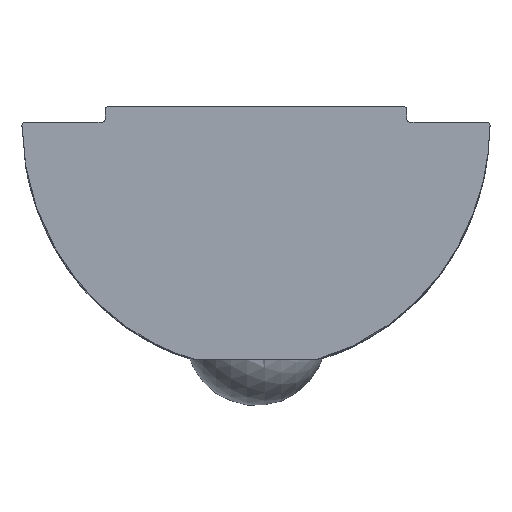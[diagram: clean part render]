
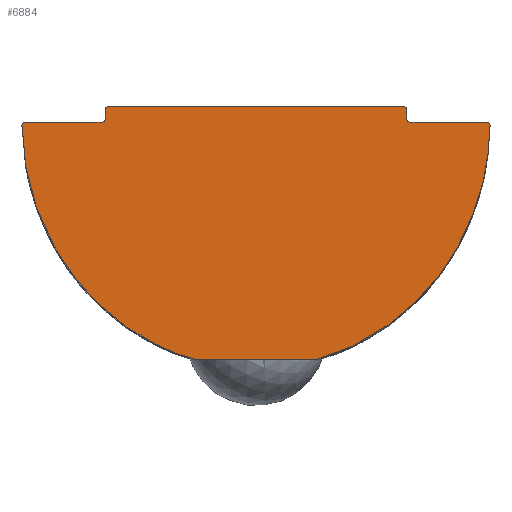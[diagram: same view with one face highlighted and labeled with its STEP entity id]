
A CAD part, top view. The second image highlights one B-rep face of the part: STEP entity #6884.
In plain terms, the highlighted planar face has unit normal (0, 0, 1).
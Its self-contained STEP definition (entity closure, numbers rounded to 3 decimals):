
#52 = CARTESIAN_POINT ( 'NONE',  ( 4.9, -0.4, 11.5 ) ) ;
#87 = DIRECTION ( 'NONE',  ( 1., 0., 0. ) ) ;
#113 = DIRECTION ( 'NONE',  ( 0., 1., 0. ) ) ;
#392 = VERTEX_POINT ( 'NONE', #2231 ) ;
#520 = VERTEX_POINT ( 'NONE', #5493 ) ;
#552 = CIRCLE ( 'NONE', #5909, 0.1 ) ;
#606 = ORIENTED_EDGE ( 'NONE', *, *, #8255, .T. ) ;
#621 = CARTESIAN_POINT ( 'NONE',  ( -7.499, -0.6, 11.5 ) ) ;
#688 = EDGE_CURVE ( 'NONE', #520, #5673, #8153, .T. ) ;
#730 = CARTESIAN_POINT ( 'NONE',  ( 4.9, -0.5, 11.5 ) ) ;
#752 = CARTESIAN_POINT ( 'NONE',  ( -4.8, 0., 11.5 ) ) ;
#772 = DIRECTION ( 'NONE',  ( 1., 0., 0. ) ) ;
#1117 = CARTESIAN_POINT ( 'NONE',  ( -7.499, -0.5, 11.5 ) ) ;
#1131 = CARTESIAN_POINT ( 'NONE',  ( 7.599, -0.601, 11.5 ) ) ;
#1168 = VECTOR ( 'NONE', #772, 1000. ) ;
#1181 = CARTESIAN_POINT ( 'NONE',  ( -7.555, -4.301, 11.5 ) ) ;
#1394 = DIRECTION ( 'NONE',  ( 1., 0., 0. ) ) ;
#1397 = LINE ( 'NONE', #730, #3622 ) ;
#1503 = EDGE_CURVE ( 'NONE', #4186, #1549, #8081, .T. ) ;
#1533 = DIRECTION ( 'NONE',  ( 0., 0., 1. ) ) ;
#1549 = VERTEX_POINT ( 'NONE', #6614 ) ;
#1566 = ORIENTED_EDGE ( 'NONE', *, *, #7665, .T. ) ;
#1768 = VECTOR ( 'NONE', #5025, 1000. ) ;
#1801 = ORIENTED_EDGE ( 'NONE', *, *, #8198, .T. ) ;
#1918 = AXIS2_PLACEMENT_3D ( 'NONE', #8096, #7257, #3652 ) ;
#1994 = EDGE_CURVE ( 'NONE', #5673, #6068, #6857, .T. ) ;
#2007 = EDGE_CURVE ( 'NONE', #7066, #6846, #9423, .T. ) ;
#2026 = ORIENTED_EDGE ( 'NONE', *, *, #8960, .T. ) ;
#2052 = CARTESIAN_POINT ( 'NONE',  ( -2., -8.2, 11.5 ) ) ;
#2086 = LINE ( 'NONE', #4971, #1768 ) ;
#2111 = CARTESIAN_POINT ( 'NONE',  ( -4.8, -0.1, 11.5 ) ) ;
#2231 = CARTESIAN_POINT ( 'NONE',  ( 7.499, -0.5, 11.5 ) ) ;
#2268 = CARTESIAN_POINT ( 'NONE',  ( 4.9, 0., 11.5 ) ) ;
#2292 = VERTEX_POINT ( 'NONE', #4309 ) ;
#2481 = EDGE_CURVE ( 'NONE', #6068, #3869, #2086, .T. ) ;
#2539 = ORIENTED_EDGE ( 'NONE', *, *, #3707, .T. ) ;
#2572 = CARTESIAN_POINT ( 'NONE',  ( 2., -8.2, 11.5 ) ) ;
#2607 = FACE_OUTER_BOUND ( 'NONE', #6914, .T. ) ;
#2799 = VERTEX_POINT ( 'NONE', #8127 ) ;
#2871 = DIRECTION ( 'NONE',  ( 1., 0., 0. ) ) ;
#2909 = DIRECTION ( 'NONE',  ( 0., 0., -1. ) ) ;
#3011 = VECTOR ( 'NONE', #113, 1000. ) ;
#3015 = VECTOR ( 'NONE', #3642, 1000. ) ;
#3161 = CARTESIAN_POINT ( 'NONE',  ( 5., -0.5, 11.5 ) ) ;
#3293 = CARTESIAN_POINT ( 'NONE',  ( 4.8, -0.1, 11.5 ) ) ;
#3318 = AXIS2_PLACEMENT_3D ( 'NONE', #8883, #1533, #1394 ) ;
#3390 = ORIENTED_EDGE ( 'NONE', *, *, #4001, .T. ) ;
#3622 = VECTOR ( 'NONE', #6568, 1000. ) ;
#3642 = DIRECTION ( 'NONE',  ( -1., 0., 0. ) ) ;
#3652 = DIRECTION ( 'NONE',  ( 1., 0., 0. ) ) ;
#3696 = ORIENTED_EDGE ( 'NONE', *, *, #1503, .T. ) ;
#3707 = EDGE_CURVE ( 'NONE', #7208, #392, #8253, .T. ) ;
#3869 = VERTEX_POINT ( 'NONE', #5991 ) ;
#4001 = EDGE_CURVE ( 'NONE', #5083, #2799, #7201, .T. ) ;
#4057 = AXIS2_PLACEMENT_3D ( 'NONE', #4397, #2909, #87 ) ;
#4133 = ORIENTED_EDGE ( 'NONE', *, *, #688, .T. ) ;
#4186 = VERTEX_POINT ( 'NONE', #7399 ) ;
#4191 = CARTESIAN_POINT ( 'NONE',  ( -5.399, -7.226, 11.5 ) ) ;
#4309 = CARTESIAN_POINT ( 'NONE',  ( -7.599, -0.601, 11.5 ) ) ;
#4322 = CARTESIAN_POINT ( 'NONE',  ( -5., -0.5, 11.5 ) ) ;
#4397 = CARTESIAN_POINT ( 'NONE',  ( 5., -0.4, 11.5 ) ) ;
#4478 = DIRECTION ( 'NONE',  ( 1., 0., 0. ) ) ;
#4483 = CARTESIAN_POINT ( 'NONE',  ( -4.9, 0., 11.5 ) ) ;
#4500 = ORIENTED_EDGE ( 'NONE', *, *, #5594, .T. ) ;
#4647 = VERTEX_POINT ( 'NONE', #3161 ) ;
#4725 = EDGE_CURVE ( 'NONE', #2799, #520, #5244, .T. ) ;
#4780 =( BOUNDED_CURVE ( )  B_SPLINE_CURVE ( 3, ( #2572, #9303, #5501, #1131 ),
 .UNSPECIFIED., .F., .T. ) 
 B_SPLINE_CURVE_WITH_KNOTS ( ( 4, 4 ),
 ( 0.266, 1.558 ),
 .UNSPECIFIED. ) 
 CURVE ( )  GEOMETRIC_REPRESENTATION_ITEM ( )  RATIONAL_B_SPLINE_CURVE ( ( 1., 0.866, 0.866, 1. ) ) 
 REPRESENTATION_ITEM ( '' )  );
#4971 = CARTESIAN_POINT ( 'NONE',  ( -4.9, 0., 11.5 ) ) ;
#5025 = DIRECTION ( 'NONE',  ( 0., -1., 0. ) ) ;
#5066 = CARTESIAN_POINT ( 'NONE',  ( -7.599, -0.601, 11.5 ) ) ;
#5083 = VERTEX_POINT ( 'NONE', #52 ) ;
#5130 = DIRECTION ( 'NONE',  ( 1., 0., 0. ) ) ;
#5149 = CARTESIAN_POINT ( 'NONE',  ( -5., -0.4, 11.5 ) ) ;
#5244 = CIRCLE ( 'NONE', #5692, 0.1 ) ;
#5493 = CARTESIAN_POINT ( 'NONE',  ( 4.8, 0., 11.5 ) ) ;
#5501 = CARTESIAN_POINT ( 'NONE',  ( 7.555, -4.301, 11.5 ) ) ;
#5509 = DIRECTION ( 'NONE',  ( 1., 0., 0. ) ) ;
#5536 = PLANE ( 'NONE',  #1918 ) ;
#5594 = EDGE_CURVE ( 'NONE', #2292, #4186, #9336, .T. ) ;
#5673 = VERTEX_POINT ( 'NONE', #752 ) ;
#5692 = AXIS2_PLACEMENT_3D ( 'NONE', #3293, #6236, #5509 ) ;
#5716 = DIRECTION ( 'NONE',  ( 0., 0., 1. ) ) ;
#5827 = DIRECTION ( 'NONE',  ( 0., 0., -1. ) ) ;
#5909 = AXIS2_PLACEMENT_3D ( 'NONE', #621, #6509, #2871 ) ;
#5991 = CARTESIAN_POINT ( 'NONE',  ( -4.9, -0.4, 11.5 ) ) ;
#6068 = VERTEX_POINT ( 'NONE', #6110 ) ;
#6110 = CARTESIAN_POINT ( 'NONE',  ( -4.9, -0.1, 11.5 ) ) ;
#6236 = DIRECTION ( 'NONE',  ( 0., 0., 1. ) ) ;
#6471 = EDGE_CURVE ( 'NONE', #1549, #7208, #4780, .T. ) ;
#6509 = DIRECTION ( 'NONE',  ( 0., 0., 1. ) ) ;
#6568 = DIRECTION ( 'NONE',  ( -1., 0., 0. ) ) ;
#6614 = CARTESIAN_POINT ( 'NONE',  ( 2., -8.2, 11.5 ) ) ;
#6791 = ORIENTED_EDGE ( 'NONE', *, *, #1994, .T. ) ;
#6846 = VERTEX_POINT ( 'NONE', #1117 ) ;
#6857 = CIRCLE ( 'NONE', #8395, 0.1 ) ;
#6884 = ADVANCED_FACE ( 'NONE', ( #2607 ), #5536, .T. ) ;
#6914 = EDGE_LOOP ( 'NONE', ( #4133, #6791, #9483, #1566, #9074, #606, #4500, #3696, #8164, #2539, #2026, #1801, #3390, #9035 ) ) ;
#7023 = CARTESIAN_POINT ( 'NONE',  ( 7.599, -0.601, 11.5 ) ) ;
#7066 = VERTEX_POINT ( 'NONE', #4322 ) ;
#7201 = LINE ( 'NONE', #2268, #3011 ) ;
#7208 = VERTEX_POINT ( 'NONE', #7023 ) ;
#7257 = DIRECTION ( 'NONE',  ( 0., 0., 1. ) ) ;
#7340 = CARTESIAN_POINT ( 'NONE',  ( -4.9, -0.5, 11.5 ) ) ;
#7399 = CARTESIAN_POINT ( 'NONE',  ( -2., -8.2, 11.5 ) ) ;
#7409 = DIRECTION ( 'NONE',  ( -1., 0., 0. ) ) ;
#7598 = AXIS2_PLACEMENT_3D ( 'NONE', #5149, #5827, #4478 ) ;
#7665 = EDGE_CURVE ( 'NONE', #3869, #7066, #8822, .T. ) ;
#8044 = VECTOR ( 'NONE', #7409, 1000. ) ;
#8081 = LINE ( 'NONE', #2052, #1168 ) ;
#8096 = CARTESIAN_POINT ( 'NONE',  ( 0., -0.5, 11.5 ) ) ;
#8127 = CARTESIAN_POINT ( 'NONE',  ( 4.9, -0.1, 11.5 ) ) ;
#8153 = LINE ( 'NONE', #4483, #8044 ) ;
#8164 = ORIENTED_EDGE ( 'NONE', *, *, #6471, .T. ) ;
#8198 = EDGE_CURVE ( 'NONE', #4647, #5083, #8235, .T. ) ;
#8235 = CIRCLE ( 'NONE', #4057, 0.1 ) ;
#8253 = CIRCLE ( 'NONE', #3318, 0.1 ) ;
#8255 = EDGE_CURVE ( 'NONE', #6846, #2292, #552, .T. ) ;
#8395 = AXIS2_PLACEMENT_3D ( 'NONE', #2111, #5716, #5130 ) ;
#8822 = CIRCLE ( 'NONE', #7598, 0.1 ) ;
#8883 = CARTESIAN_POINT ( 'NONE',  ( 7.499, -0.6, 11.5 ) ) ;
#8960 = EDGE_CURVE ( 'NONE', #392, #4647, #1397, .T. ) ;
#9035 = ORIENTED_EDGE ( 'NONE', *, *, #4725, .T. ) ;
#9074 = ORIENTED_EDGE ( 'NONE', *, *, #2007, .T. ) ;
#9303 = CARTESIAN_POINT ( 'NONE',  ( 5.399, -7.226, 11.5 ) ) ;
#9336 =( BOUNDED_CURVE ( )  B_SPLINE_CURVE ( 3, ( #5066, #1181, #4191, #9349 ),
 .UNSPECIFIED., .F., .T. ) 
 B_SPLINE_CURVE_WITH_KNOTS ( ( 4, 4 ),
 ( 4.725, 6.017 ),
 .UNSPECIFIED. ) 
 CURVE ( )  GEOMETRIC_REPRESENTATION_ITEM ( )  RATIONAL_B_SPLINE_CURVE ( ( 1., 0.866, 0.866, 1. ) ) 
 REPRESENTATION_ITEM ( '' )  );
#9349 = CARTESIAN_POINT ( 'NONE',  ( -2., -8.2, 11.5 ) ) ;
#9423 = LINE ( 'NONE', #7340, #3015 ) ;
#9483 = ORIENTED_EDGE ( 'NONE', *, *, #2481, .T. ) ;
